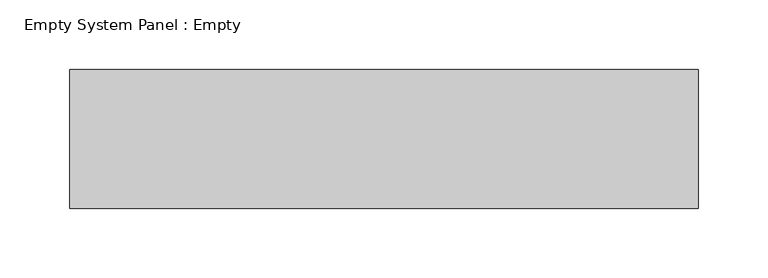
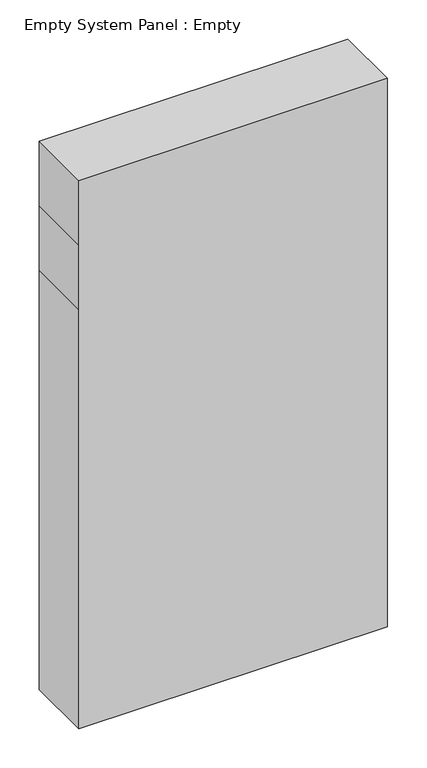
"""IFC4 building model written with IfcOpenShell, lengths in millimetres: plate geometry, Empty System Panel : Empty."""

from ifc_helpers import new_model, si_unit, frame, origin, place, context, project, spatial, polyline, outline, extrude, source, transform, mapped, element, save


def empty_system_panel_empty_e92f2667(model_context):
    return source(origin(), model_context, "Body", "SweptSolid", [
        extrude(outline(polyline([(0.0, -226.25), (0.0, 226.25), (650.0, 226.25), (750.0, 226.25), (850.0, 226.25), (850.0, -226.25), (750.0, -226.25), (650.0, -226.25), (0.0, -226.25)])), frame((0.0, -50.0, 0.0), z_axis=(0.0, 1.0, 0.0), x_axis=(0.0, 0.0, 1.0)), (0.0, 0.0, 1.0), 100.0),
    ])


if __name__ == "__main__":
    model = new_model("IFC4")
    model_context = context("Model", 3, world=origin())
    ifc_project = project(units=[si_unit("LENGTHUNIT", "METRE", prefix="MILLI")], contexts=[model_context])
    site = spatial("IfcSite", under=ifc_project)
    building = spatial("IfcBuilding", under=site)
    placement = place(None, origin())
    empty_system_panel_empty_shape = empty_system_panel_empty_e92f2667(model_context)
    element("IfcPlate", 1, ObjectType="Empty System Panel : Empty", at=placement, inside=building, context=model_context, shape_type="MappedRepresentation", body=[
        mapped(empty_system_panel_empty_shape, transform((0.0, 0.0, 0.0), x_axis=(1.0, 0.0, 0.0), y_axis=(0.0, 1.0, 0.0), z_axis=(0.0, 0.0, 1.0))),
    ])
    save(model, "model.ifc")
